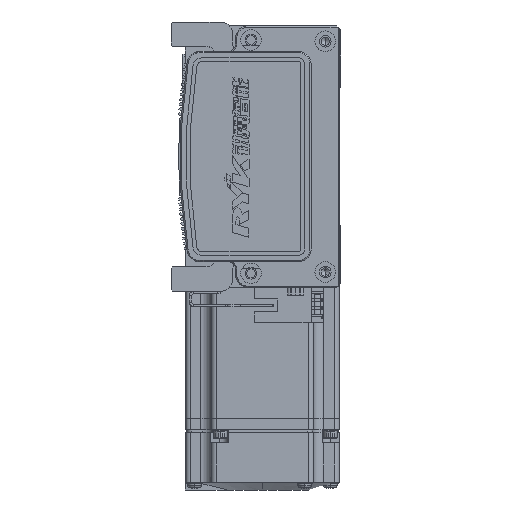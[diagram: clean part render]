
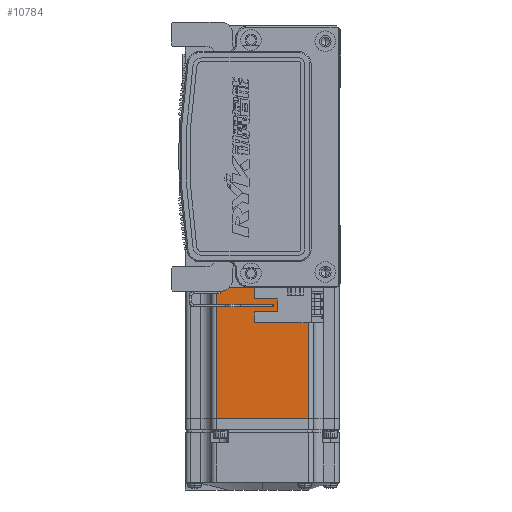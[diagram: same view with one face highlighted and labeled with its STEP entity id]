
A CAD part, left-side view. The second image highlights one B-rep face of the part: STEP entity #10784.
In plain terms, the highlighted planar face has unit normal (-1, 0, 0) as drawn and (0, 0, 1) by its records, which use the part's own axes.
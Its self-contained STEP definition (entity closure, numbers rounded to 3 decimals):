
#2815 = CARTESIAN_POINT ( 'NONE',  ( -6.5, -25., 30. ) ) ;
#5211 = DIRECTION ( 'NONE',  ( 0., -1., 0. ) ) ;
#7742 = AXIS2_PLACEMENT_3D ( 'NONE', #2815, #67908, #67439 ) ;
#8196 = LINE ( 'NONE', #26428, #20865 ) ;
#9659 = DIRECTION ( 'NONE',  ( 0., -1., 0. ) ) ;
#9929 = LINE ( 'NONE', #54206, #66651 ) ;
#10784 = ADVANCED_FACE ( 'NONE', ( #13253 ), #15032, .T. ) ;
#13253 = FACE_OUTER_BOUND ( 'NONE', #16559, .T. ) ;
#13591 = EDGE_CURVE ( 'NONE', #58189, #33606, #55971, .T. ) ;
#15032 = PLANE ( 'NONE',  #7742 ) ;
#16334 = EDGE_CURVE ( 'NONE', #54625, #33067, #48919, .T. ) ;
#16559 = EDGE_LOOP ( 'NONE', ( #50961, #52003, #54106, #16691 ) ) ;
#16691 = ORIENTED_EDGE ( 'NONE', *, *, #16334, .F. ) ;
#20865 = VECTOR ( 'NONE', #9659, 1000. ) ;
#21585 = CARTESIAN_POINT ( 'NONE',  ( -6.5, 18., 30. ) ) ;
#26428 = CARTESIAN_POINT ( 'NONE',  ( -7.75, 0., 30. ) ) ;
#30626 = CARTESIAN_POINT ( 'NONE',  ( -70.95, 18., 30. ) ) ;
#30953 = EDGE_CURVE ( 'NONE', #58189, #54625, #8196, .T. ) ;
#33067 = VERTEX_POINT ( 'NONE', #50354 ) ;
#33215 = VECTOR ( 'NONE', #38770, 1000. ) ;
#33606 = VERTEX_POINT ( 'NONE', #30626 ) ;
#37071 = CARTESIAN_POINT ( 'NONE',  ( -6.5, -18., 30. ) ) ;
#38770 = DIRECTION ( 'NONE',  ( -1., 0., 0. ) ) ;
#42511 = DIRECTION ( 'NONE',  ( -1., 0., 0. ) ) ;
#42780 = EDGE_CURVE ( 'NONE', #33606, #33067, #9929, .T. ) ;
#48919 = LINE ( 'NONE', #37071, #55697 ) ;
#50354 = CARTESIAN_POINT ( 'NONE',  ( -70.95, -18., 30. ) ) ;
#50961 = ORIENTED_EDGE ( 'NONE', *, *, #30953, .F. ) ;
#52003 = ORIENTED_EDGE ( 'NONE', *, *, #13591, .T. ) ;
#54106 = ORIENTED_EDGE ( 'NONE', *, *, #42780, .T. ) ;
#54206 = CARTESIAN_POINT ( 'NONE',  ( -70.95, 0., 30. ) ) ;
#54625 = VERTEX_POINT ( 'NONE', #67396 ) ;
#55697 = VECTOR ( 'NONE', #42511, 1000. ) ;
#55971 = LINE ( 'NONE', #21585, #33215 ) ;
#56632 = CARTESIAN_POINT ( 'NONE',  ( -7.75, 18., 30. ) ) ;
#58189 = VERTEX_POINT ( 'NONE', #56632 ) ;
#66651 = VECTOR ( 'NONE', #5211, 1000. ) ;
#67396 = CARTESIAN_POINT ( 'NONE',  ( -7.75, -18., 30. ) ) ;
#67439 = DIRECTION ( 'NONE',  ( 1., 0., 0. ) ) ;
#67908 = DIRECTION ( 'NONE',  ( 0., 0., 1. ) ) ;
